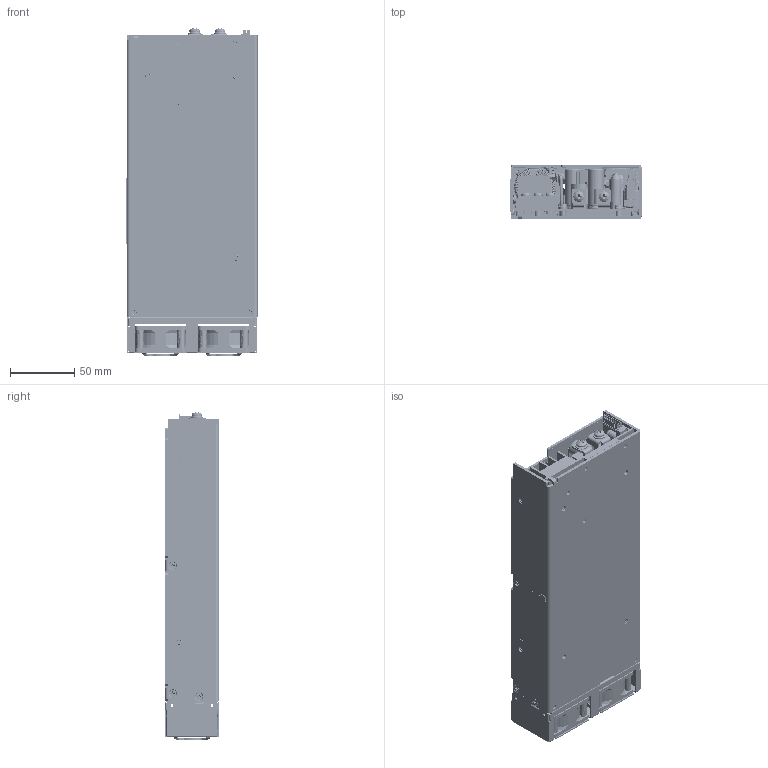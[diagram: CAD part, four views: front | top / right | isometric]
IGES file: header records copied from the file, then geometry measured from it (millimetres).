
Start section: SolidWorks IGES file using analytic representation for surfaces
Global section: file name: X:\Product\GSP750PSXX\01 STANDARD\DRAWING\03 MECHANICAL\09 SOLIDWORKS\ASSY GSP750-EF.IGS; native system: SolidWorks 2015; preprocessor: SolidWorks 2015; author: user; date: 160812.173244; units: millimetre
Bounding box: 101.7 x 41.9 x 254.03 mm (x, y, z)
Surface area: 614812.5 mm2 (no closed solid volume)
Topology: 0 solids, 0 shells, 13962 faces, 141732 edges, 141586 vertices
Faces by surface type: bspline 8826, revolution 5136
